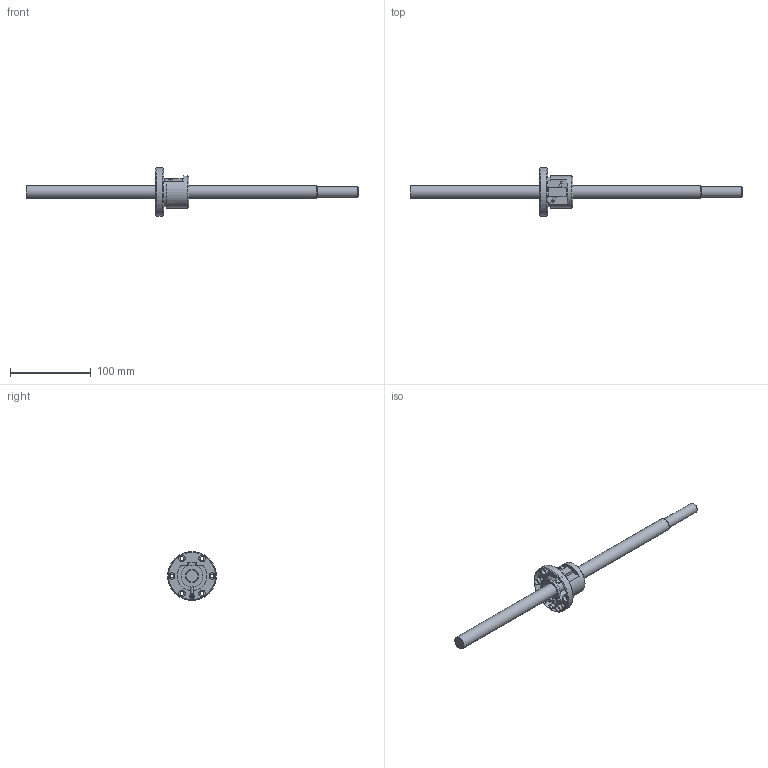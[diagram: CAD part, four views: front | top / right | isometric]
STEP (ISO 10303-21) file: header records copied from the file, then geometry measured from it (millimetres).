
FILE_DESCRIPTION(/* description */ ('STEP AP203'),/* implementation_level */ '2;1');
FILE_NAME(/* name */ 'BNF1605-2.5RRG1+410LC5A(00)',/* time_stamp */ '2024-07-15T07:41:13+02:00',/* author */ ('License CC BY-ND 4.0'),/* organization */ ('CADENAS'),/* preprocessor_version */ 'ST-DEVELOPER v19.3',/* originating_system */ 'PARTsolutions',/* authorisation */ ' ');
FILE_SCHEMA (('CONFIG_CONTROL_DESIGN'));
Length unit declared in the file: millimetre
Products named in the file (3): BNF1605-2.5RRG1+410LC5A(00); BNF1605-2.5RRG1+410LC5A(00)_shaft; BNF 1605-2.5RR_nut
Assembly tree (2 placements, depth 2):
  BNF1605-2.5RRG1+410LC5A(00)
    BNF1605-2.5RRG1+410LC5A(00)_shaft
    BNF 1605-2.5RR_nut
Bounding box: 410 x 60 x 60 mm (x, y, z)
Volume: 129800.4 mm3; surface area: 35465.7 mm2
Topology: 2 solids, 2 shells, 65 faces, 156 edges, 99 vertices
Faces by surface type: cylinder 30, plane 24, cone 9, torus 2
Full cylindrical faces by diameter (mm): 2.5 x2, 2.665 x2, 4.5 x6, 4.917 x1, 8 x6, 12.8 x1, 16 x2, 27 x2, 40 x1, 60 x1
Entity records: 1729 total; most frequent: DIRECTION 306, CARTESIAN_POINT 302, ORIENTED_EDGE 210, AXIS2_PLACEMENT_3D 141, EDGE_LOOP 124, FACE_BOUND 124, EDGE_CURVE 105, VERTEX_POINT 83
